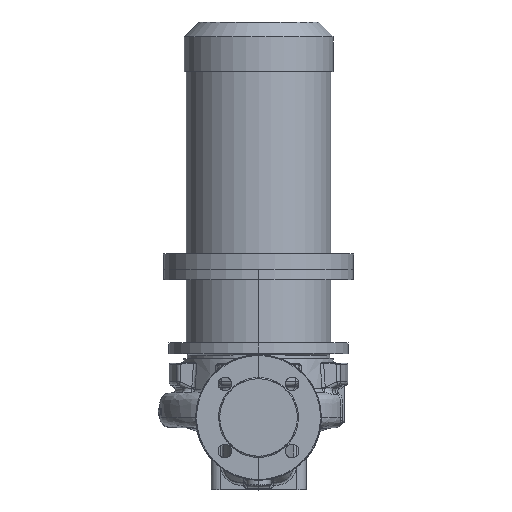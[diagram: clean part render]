
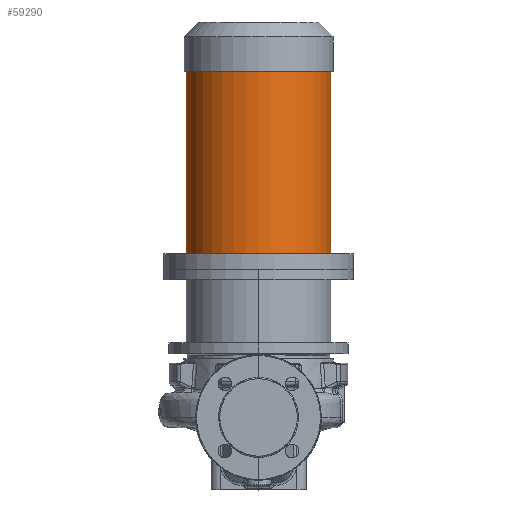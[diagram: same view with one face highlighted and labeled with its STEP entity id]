
A CAD part, top view. The second image highlights one B-rep face of the part: STEP entity #59290.
In plain terms, the highlighted cylindrical face has radius 95 mm (diameter 190 mm), a partial arc.
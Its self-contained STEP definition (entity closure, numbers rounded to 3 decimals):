
#291 = CARTESIAN_POINT ( 'NONE',  ( 0., 195.3, 0. ) ) ;
#1780 = ORIENTED_EDGE ( 'NONE', *, *, #15595, .F. ) ;
#2366 = LINE ( 'NONE', #32367, #28610 ) ;
#4147 = VERTEX_POINT ( 'NONE', #27177 ) ;
#11009 = VECTOR ( 'NONE', #18117, 1000. ) ;
#11314 = DIRECTION ( 'NONE',  ( -1., 0., 0. ) ) ;
#11873 = CARTESIAN_POINT ( 'NONE',  ( 0., 455.3, 0. ) ) ;
#12470 = EDGE_CURVE ( 'NONE', #77661, #78607, #2366, .T. ) ;
#12821 = AXIS2_PLACEMENT_3D ( 'NONE', #291, #32041, #75347 ) ;
#15595 = EDGE_CURVE ( 'NONE', #4147, #71921, #42946, .T. ) ;
#18117 = DIRECTION ( 'NONE',  ( 0., -1., 0. ) ) ;
#27177 = CARTESIAN_POINT ( 'NONE',  ( 95., 455.3, 0. ) ) ;
#28610 = VECTOR ( 'NONE', #75947, 1000. ) ;
#28766 = CARTESIAN_POINT ( 'NONE',  ( 95., 215.3, 0. ) ) ;
#32041 = DIRECTION ( 'NONE',  ( 0., -1., 0. ) ) ;
#32367 = CARTESIAN_POINT ( 'NONE',  ( -95., 195.3, 0. ) ) ;
#39406 = EDGE_CURVE ( 'NONE', #4147, #77661, #71576, .T. ) ;
#42163 = DIRECTION ( 'NONE',  ( 0., -1., 0. ) ) ;
#42737 = CARTESIAN_POINT ( 'NONE',  ( 95., 195.3, 0. ) ) ;
#42946 = LINE ( 'NONE', #42737, #11009 ) ;
#48851 = CARTESIAN_POINT ( 'NONE',  ( -95., 215.3, 0. ) ) ;
#49569 = CYLINDRICAL_SURFACE ( 'NONE', #12821, 95. ) ;
#49917 = AXIS2_PLACEMENT_3D ( 'NONE', #66841, #42163, #11314 ) ;
#51866 = AXIS2_PLACEMENT_3D ( 'NONE', #11873, #66335, #78787 ) ;
#52774 = CIRCLE ( 'NONE', #49917, 95. ) ;
#55041 = ORIENTED_EDGE ( 'NONE', *, *, #12470, .T. ) ;
#55651 = ORIENTED_EDGE ( 'NONE', *, *, #39406, .T. ) ;
#59013 = ORIENTED_EDGE ( 'NONE', *, *, #80090, .F. ) ;
#59290 = ADVANCED_FACE ( 'NONE', ( #73847 ), #49569, .T. ) ;
#64341 = CARTESIAN_POINT ( 'NONE',  ( -95., 455.3, 0. ) ) ;
#66335 = DIRECTION ( 'NONE',  ( 0., -1., 0. ) ) ;
#66841 = CARTESIAN_POINT ( 'NONE',  ( 0., 215.3, 0. ) ) ;
#71576 = CIRCLE ( 'NONE', #51866, 95. ) ;
#71921 = VERTEX_POINT ( 'NONE', #28766 ) ;
#73847 = FACE_OUTER_BOUND ( 'NONE', #78704, .T. ) ;
#75347 = DIRECTION ( 'NONE',  ( -1., 0., 0. ) ) ;
#75947 = DIRECTION ( 'NONE',  ( 0., -1., 0. ) ) ;
#77661 = VERTEX_POINT ( 'NONE', #64341 ) ;
#78607 = VERTEX_POINT ( 'NONE', #48851 ) ;
#78704 = EDGE_LOOP ( 'NONE', ( #1780, #55651, #55041, #59013 ) ) ;
#78787 = DIRECTION ( 'NONE',  ( -1., 0., 0. ) ) ;
#80090 = EDGE_CURVE ( 'NONE', #71921, #78607, #52774, .T. ) ;
